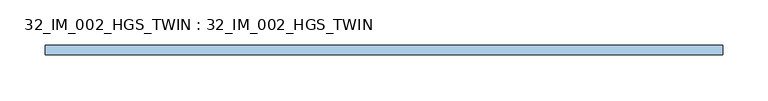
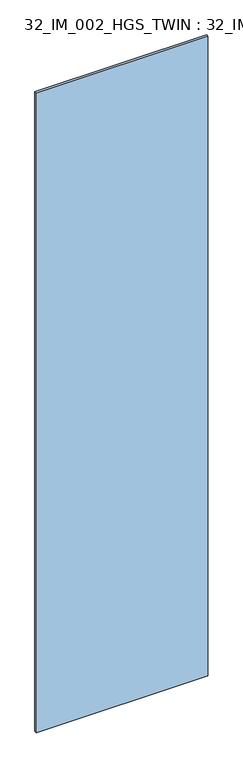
"""IFC4 building model written with IfcOpenShell, lengths in millimetres: window geometry, 32_IM_002_HGS_TWIN : 32_IM_002_HGS_TWIN."""

from ifc_helpers import new_model, si_unit, origin, origin_with_axes, place, context, project, spatial, polyline, outline, extrude, source, transform, mapped, element, save


def window_32_im_002_hgs_twin_32_im_002_hgs_twin_339a3455(model_context):
    return source(origin(), model_context, "Body", "SweptSolid", [
        extrude(outline(polyline([(375.0, -5.4), (-375.0, -5.4), (-375.0, 5.4), (375.0, 5.4), (375.0, -5.4)])), origin_with_axes(), (0.0, 0.0, 1.0), 2956.0),
    ])


if __name__ == "__main__":
    model = new_model("IFC4")
    model_context = context("Model", 3, world=origin())
    ifc_project = project(units=[si_unit("LENGTHUNIT", "METRE", prefix="MILLI")], contexts=[model_context])
    site = spatial("IfcSite", under=ifc_project)
    building = spatial("IfcBuilding", under=site)
    placement = place(None, origin())
    window_32_im_002_hgs_twin_32_im_002_hgs_twin_shape = window_32_im_002_hgs_twin_32_im_002_hgs_twin_339a3455(model_context)
    element("IfcWindow", 1, ObjectType="32_IM_002_HGS_TWIN : 32_IM_002_HGS_TWIN", at=placement, inside=building, context=model_context, shape_type="MappedRepresentation", body=[
        mapped(window_32_im_002_hgs_twin_32_im_002_hgs_twin_shape, transform((0.0, 0.0, 0.0), x_axis=(1.0, 0.0, 0.0), y_axis=(0.0, 1.0, 0.0), z_axis=(0.0, 0.0, 1.0))),
    ])
    save(model, "model.ifc")
